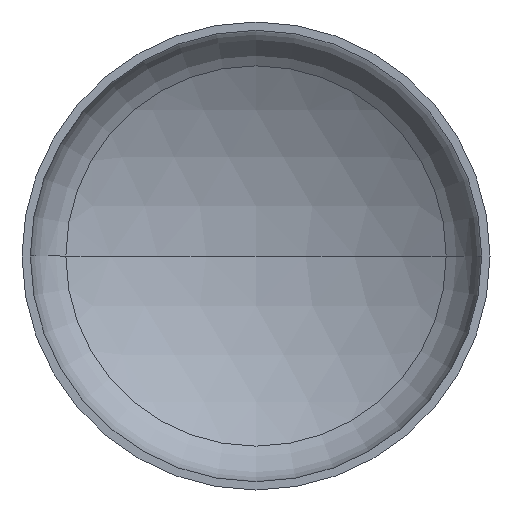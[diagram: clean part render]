
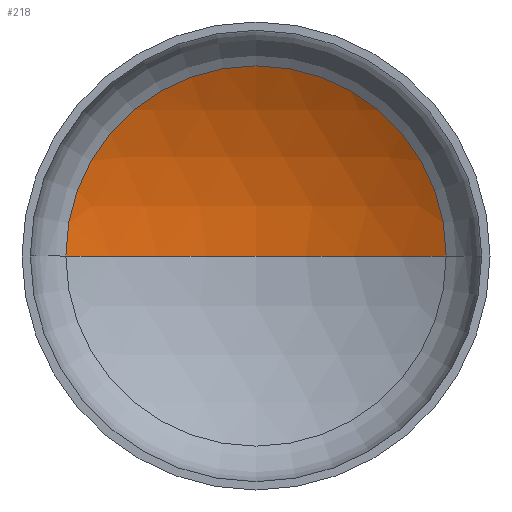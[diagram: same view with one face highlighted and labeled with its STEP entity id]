
A CAD part, front view. The second image highlights one B-rep face of the part: STEP entity #218.
In plain terms, the highlighted spherical face has radius 3040 mm.
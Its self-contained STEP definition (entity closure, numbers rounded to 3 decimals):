
#5 = AXIS2_PLACEMENT_3D ( 'NONE', #284, #296, #297 ) ;
#8 = AXIS2_PLACEMENT_3D ( 'NONE', #224, #232, #230 ) ;
#26 = ORIENTED_EDGE ( 'NONE', *, *, #370, .T. ) ;
#47 = VERTEX_POINT ( 'NONE', #178 ) ;
#48 = AXIS2_PLACEMENT_3D ( 'NONE', #387, #400, #393 ) ;
#60 = ORIENTED_EDGE ( 'NONE', *, *, #357, .F. ) ;
#97 = CIRCLE ( 'NONE', #5, 3040. ) ;
#116 = DIRECTION ( 'NONE',  ( 0., -1., 0. ) ) ;
#121 = DIRECTION ( 'NONE',  ( 1., 0., 0. ) ) ;
#129 = ORIENTED_EDGE ( 'NONE', *, *, #379, .T. ) ;
#178 = CARTESIAN_POINT ( 'NONE',  ( 0., 1045.286, 0. ) ) ;
#180 = CIRCLE ( 'NONE', #409, 1544.147 ) ;
#198 = VERTEX_POINT ( 'NONE', #249 ) ;
#218 = ADVANCED_FACE ( 'NONE', ( #410 ), #358, .F. ) ;
#222 = CARTESIAN_POINT ( 'NONE',  ( 1544.147, 623.914, 0. ) ) ;
#224 = CARTESIAN_POINT ( 'NONE',  ( 0., -1994.714, 0. ) ) ;
#230 = DIRECTION ( 'NONE',  ( 1., 0., 0. ) ) ;
#232 = DIRECTION ( 'NONE',  ( 0., 0., 1. ) ) ;
#249 = CARTESIAN_POINT ( 'NONE',  ( -1544.147, 623.914, 0. ) ) ;
#284 = CARTESIAN_POINT ( 'NONE',  ( 0., -1994.714, 0. ) ) ;
#296 = DIRECTION ( 'NONE',  ( 0., 0., -1. ) ) ;
#297 = DIRECTION ( 'NONE',  ( -1., 0., 0. ) ) ;
#301 = CARTESIAN_POINT ( 'NONE',  ( 0., 623.914, 0. ) ) ;
#316 = CIRCLE ( 'NONE', #8, 3040. ) ;
#344 = EDGE_LOOP ( 'NONE', ( #60, #26, #129 ) ) ;
#357 = EDGE_CURVE ( 'NONE', #47, #198, #316, .T. ) ;
#358 = SPHERICAL_SURFACE ( 'NONE', #48, 3040. ) ;
#370 = EDGE_CURVE ( 'NONE', #47, #386, #97, .T. ) ;
#379 = EDGE_CURVE ( 'NONE', #386, #198, #180, .T. ) ;
#386 = VERTEX_POINT ( 'NONE', #222 ) ;
#387 = CARTESIAN_POINT ( 'NONE',  ( 0., -1994.714, 0. ) ) ;
#393 = DIRECTION ( 'NONE',  ( -1., 0., 0. ) ) ;
#400 = DIRECTION ( 'NONE',  ( 0., 0., -1. ) ) ;
#409 = AXIS2_PLACEMENT_3D ( 'NONE', #301, #116, #121 ) ;
#410 = FACE_OUTER_BOUND ( 'NONE', #344, .T. ) ;
